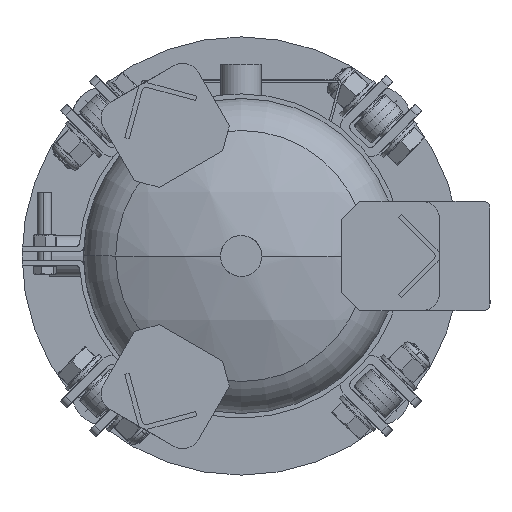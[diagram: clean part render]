
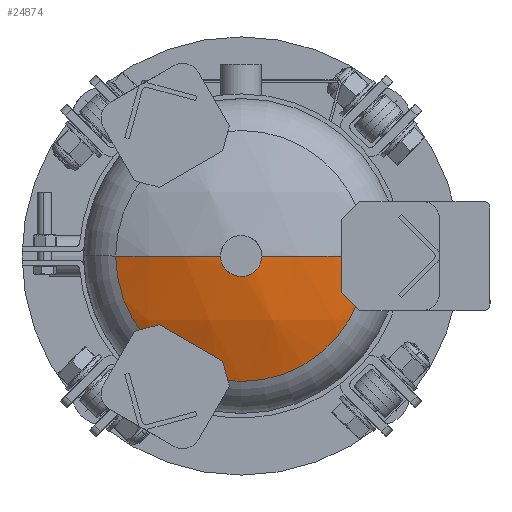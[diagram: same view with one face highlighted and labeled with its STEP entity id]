
A CAD part, front view. The second image highlights one B-rep face of the part: STEP entity #24874.
In plain terms, the highlighted spherical face has radius 195.112 mm.
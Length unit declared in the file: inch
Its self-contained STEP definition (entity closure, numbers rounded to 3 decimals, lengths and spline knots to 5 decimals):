
#442 = ORIENTED_EDGE ( 'NONE', *, *, #3405, .F. ) ;
#1557 = CARTESIAN_POINT ( 'NONE',  ( 0.5625, -20.54188, 0. ) ) ;
#1675 = SPHERICAL_SURFACE ( 'NONE', #23852, 7.68158 ) ;
#1889 = ORIENTED_EDGE ( 'NONE', *, *, #5049, .F. ) ;
#3405 = EDGE_CURVE ( 'NONE', #21127, #9394, #9635, .T. ) ;
#3720 = AXIS2_PLACEMENT_3D ( 'NONE', #21989, #10354, #19644 ) ;
#4886 = CARTESIAN_POINT ( 'NONE',  ( 0., -12.88092, 0. ) ) ;
#5049 = EDGE_CURVE ( 'NONE', #20614, #29140, #19801, .T. ) ;
#6115 = DIRECTION ( 'NONE',  ( 0., -1., 0. ) ) ;
#6136 = AXIS2_PLACEMENT_3D ( 'NONE', #4886, #14161, #18789 ) ;
#6264 = DIRECTION ( 'NONE',  ( 1., 0., 0. ) ) ;
#6890 = CARTESIAN_POINT ( 'NONE',  ( 3.43561, -19.75138, 0. ) ) ;
#8946 = CARTESIAN_POINT ( 'NONE',  ( 0., -12.88092, 0. ) ) ;
#9024 = AXIS2_PLACEMENT_3D ( 'NONE', #22350, #6115, #6264 ) ;
#9394 = VERTEX_POINT ( 'NONE', #1557 ) ;
#9433 = AXIS2_PLACEMENT_3D ( 'NONE', #9526, #25619, #18655 ) ;
#9526 = CARTESIAN_POINT ( 'NONE',  ( 0., -12.88092, 0. ) ) ;
#9635 = CIRCLE ( 'NONE', #3720, 0.5625 ) ;
#10354 = DIRECTION ( 'NONE',  ( 0., -1., 0. ) ) ;
#11375 = EDGE_CURVE ( 'NONE', #20614, #18779, #19882, .T. ) ;
#12651 = EDGE_LOOP ( 'NONE', ( #26367, #20774, #442, #22092, #1889 ) ) ;
#14161 = DIRECTION ( 'NONE',  ( 0., 0., -1. ) ) ;
#18639 = CARTESIAN_POINT ( 'NONE',  ( -3.43561, -19.75138, 0. ) ) ;
#18655 = DIRECTION ( 'NONE',  ( 1., 0., 0. ) ) ;
#18779 = VERTEX_POINT ( 'NONE', #6890 ) ;
#18789 = DIRECTION ( 'NONE',  ( -1., 0., 0. ) ) ;
#19644 = DIRECTION ( 'NONE',  ( 0., 0., 1. ) ) ;
#19801 = CIRCLE ( 'NONE', #9433, 7.68158 ) ;
#19882 = CIRCLE ( 'NONE', #9024, 3.43561 ) ;
#20475 = CARTESIAN_POINT ( 'NONE',  ( 0., -20.54188, 0. ) ) ;
#20561 = FACE_OUTER_BOUND ( 'NONE', #12651, .T. ) ;
#20614 = VERTEX_POINT ( 'NONE', #18639 ) ;
#20774 = ORIENTED_EDGE ( 'NONE', *, *, #25700, .T. ) ;
#21127 = VERTEX_POINT ( 'NONE', #24012 ) ;
#21440 = CIRCLE ( 'NONE', #6136, 7.68158 ) ;
#21963 = AXIS2_PLACEMENT_3D ( 'NONE', #20475, #27590, #22496 ) ;
#21989 = CARTESIAN_POINT ( 'NONE',  ( 0., -20.54188, 0. ) ) ;
#22092 = ORIENTED_EDGE ( 'NONE', *, *, #26075, .F. ) ;
#22350 = CARTESIAN_POINT ( 'NONE',  ( 0., -19.75138, 0. ) ) ;
#22479 = CARTESIAN_POINT ( 'NONE',  ( -0.5625, -20.54188, 0. ) ) ;
#22496 = DIRECTION ( 'NONE',  ( 0., 0., 1. ) ) ;
#23852 = AXIS2_PLACEMENT_3D ( 'NONE', #8946, #30000, #30293 ) ;
#24012 = CARTESIAN_POINT ( 'NONE',  ( -0.27776, -20.54188, -0.48914 ) ) ;
#24874 = ADVANCED_FACE ( 'NONE', ( #20561 ), #1675, .T. ) ;
#25619 = DIRECTION ( 'NONE',  ( 0., 0., 1. ) ) ;
#25700 = EDGE_CURVE ( 'NONE', #18779, #9394, #21440, .T. ) ;
#26075 = EDGE_CURVE ( 'NONE', #29140, #21127, #28390, .T. ) ;
#26367 = ORIENTED_EDGE ( 'NONE', *, *, #11375, .T. ) ;
#27590 = DIRECTION ( 'NONE',  ( 0., -1., 0. ) ) ;
#28390 = CIRCLE ( 'NONE', #21963, 0.5625 ) ;
#29140 = VERTEX_POINT ( 'NONE', #22479 ) ;
#30000 = DIRECTION ( 'NONE',  ( 0., 0., -1. ) ) ;
#30293 = DIRECTION ( 'NONE',  ( -1., 0., 0. ) ) ;
